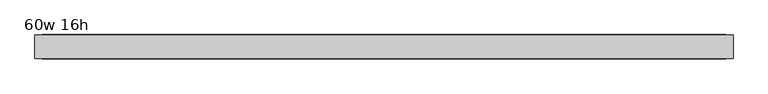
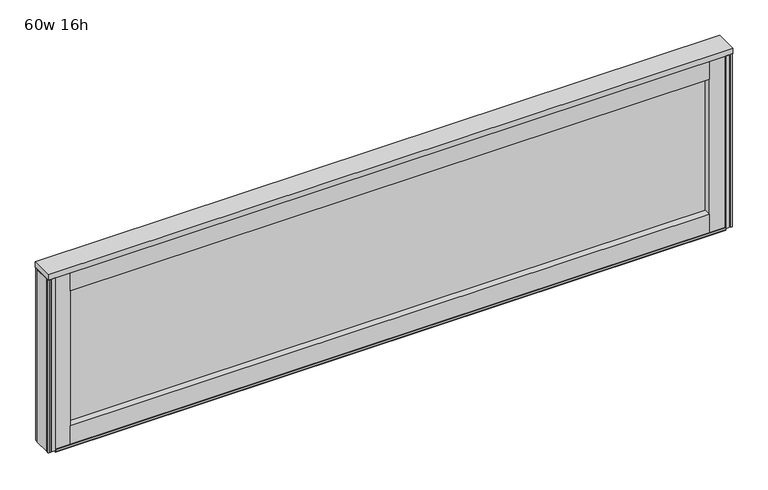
"""IFC4 building model written with IfcOpenShell, lengths in millimetres: furniture geometry, Haworth_UniGroupToo_Panel_GlazedAddOn : 60w 16h."""

from ifc_helpers import new_model, si_unit, frame, origin, place, context, project, spatial, polyline, outline, extrude, source, transform, mapped, element, save


def furniture_60w_16h_2723d1e0(model_context):
    return source(origin(), model_context, "Body", "SweptSolid", [
        extrude(outline(polyline([(-759.5597098, 16.5777477), (-757.8959283, 16.5777477), (-757.8959283, 19.6514836), (-759.5597098, 19.6514836), (-759.5597098, 23.7362925), (-757.8960023, 25.4), (-754.7358151, 25.4), (-754.7358151, 16.3224762), (-751.5639389, 16.3224762), (-751.5639389, 25.4), (-743.6847098, 25.4), (-743.6847098, -25.4), (-751.5639389, -25.4), (-751.5639389, -16.3224762), (-754.7358151, -16.3224762), (-754.7358151, -25.4), (-757.8960023, -25.4), (-759.5597098, -23.7362925), (-759.5597098, -19.6514836), (-757.8959283, -19.6514836), (-757.8959283, -16.5777477), (-759.5597098, -16.5777477), (-759.5597098, 16.5777477)])), frame((0.0, 0.0, 1206.5), z_axis=(0.0, 0.0, 1.0), x_axis=(1.0, 0.0, 0.0)), (0.0, 0.0, 1.0), 406.4),
        extrude(outline(polyline([(764.4402902, 16.5777477), (764.4402902, -16.5777477), (762.7765086, -16.5777477), (762.7765086, -19.6514836), (764.4402902, -19.6514836), (764.4402902, -23.7362925), (762.7765827, -25.4), (759.6163954, -25.4), (759.6163954, -16.3224762), (756.4445192, -16.3224762), (756.4445192, -25.4), (748.5652902, -25.4), (748.5652902, 25.4), (756.4445192, 25.4), (756.4445192, 16.3224762), (759.6163954, 16.3224762), (759.6163954, 25.4), (762.7765827, 25.4), (764.4402902, 23.7362925), (764.4402902, 19.6514836), (762.7765086, 19.6514836), (762.7765086, 16.5777477), (764.4402902, 16.5777477)])), frame((0.0, 0.0, 1206.5), z_axis=(0.0, 0.0, 1.0), x_axis=(1.0, 0.0, 0.0)), (0.0, 0.0, 1.0), 406.4),
        extrude(outline(polyline([(-26.3921875, 1208.9368125), (-25.4, 1209.929), (-25.4, 1203.071), (-26.3921875, 1204.0631875), (-26.3921875, 1208.9368125)])), frame((-743.6847098, 0.0, 0.0), z_axis=(1.0, 0.0, 0.0), x_axis=(0.0, 1.0, 0.0)), (0.0, 0.0, 1.0), 1492.25),
        extrude(outline(polyline([(26.3921875, 1208.9368125), (26.3921875, 1204.0631875), (25.4, 1203.071), (25.4, 1209.929), (26.3921875, 1208.9368125)])), frame((-743.6847098, 0.0, 0.0), z_axis=(1.0, 0.0, 0.0), x_axis=(0.0, 1.0, 0.0)), (0.0, 0.0, 1.0), 1492.25),
        extrude(outline(polyline([(713.6402902, -6.35), (-708.7597098, -6.35), (-708.7597098, 6.35), (713.6402902, 6.35), (713.6402902, -6.35)])), frame((0.0, 0.0, 1250.95), z_axis=(0.0, 0.0, 1.0), x_axis=(1.0, 0.0, 0.0)), (0.0, 0.0, 1.0), 317.5),
        extrude(outline(polyline([(-708.7597098, -22.225), (-708.7597098, 22.225), (713.6402902, 22.225), (713.6402902, -22.225), (-708.7597098, -22.225)])), frame((0.0, 0.0, 1568.45), z_axis=(0.0, 0.0, 1.0), x_axis=(1.0, 0.0, 0.0)), (0.0, 0.0, 1.0), 44.45),
        extrude(outline(polyline([(-708.7597098, -22.225), (-708.7597098, 22.225), (713.6402902, 22.225), (713.6402902, -22.225), (-708.7597098, -22.225)])), frame((0.0, 0.0, 1206.5), z_axis=(0.0, 0.0, 1.0), x_axis=(1.0, 0.0, 0.0)), (0.0, 0.0, 1.0), 44.45),
        extrude(outline(polyline([(-708.7597098, -22.225), (-743.6847098, -22.225), (-743.6847098, 22.225), (-708.7597098, 22.225), (-708.7597098, -22.225)])), frame((0.0, 0.0, 1206.5), z_axis=(0.0, 0.0, 1.0), x_axis=(1.0, 0.0, 0.0)), (0.0, 0.0, 1.0), 406.4),
        extrude(outline(polyline([(748.5652902, -22.225), (713.6402902, -22.225), (713.6402902, 22.225), (748.5652902, 22.225), (748.5652902, -22.225)])), frame((0.0, 0.0, 1206.5), z_axis=(0.0, 0.0, 1.0), x_axis=(1.0, 0.0, 0.0)), (0.0, 0.0, 1.0), 406.4),
        extrude(outline(polyline([(764.4402902, -25.4), (-759.5597098, -25.4), (-759.5597098, 25.4), (764.4402902, 25.4), (764.4402902, -25.4)])), frame((0.0, 0.0, 1612.9), z_axis=(0.0, 0.0, 1.0), x_axis=(1.0, 0.0, 0.0)), (0.0, 0.0, 1.0), 12.7),
    ])


if __name__ == "__main__":
    model = new_model("IFC4")
    model_context = context("Model", 3, world=origin())
    ifc_project = project(units=[si_unit("LENGTHUNIT", "METRE", prefix="MILLI")], contexts=[model_context])
    site = spatial("IfcSite", under=ifc_project)
    building = spatial("IfcBuilding", under=site)
    placement = place(None, origin())
    furniture_60w_16h_shape = furniture_60w_16h_2723d1e0(model_context)
    element("IfcFurniture", 1, ObjectType="Haworth_UniGroupToo_Panel_GlazedAddOn : 60w 16h", at=placement, inside=building, context=model_context, shape_type="MappedRepresentation", body=[
        mapped(furniture_60w_16h_shape, transform((0.0, 0.0, 0.0), x_axis=(1.0, 0.0, 0.0), y_axis=(0.0, 1.0, 0.0), z_axis=(0.0, 0.0, 1.0))),
    ])
    save(model, "model.ifc")
